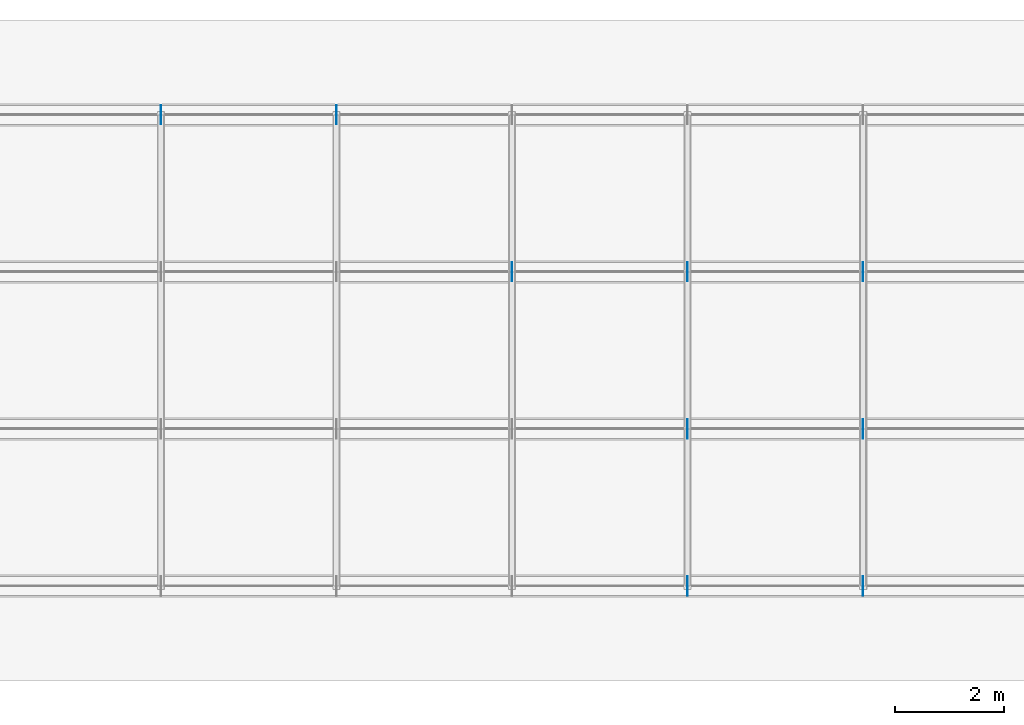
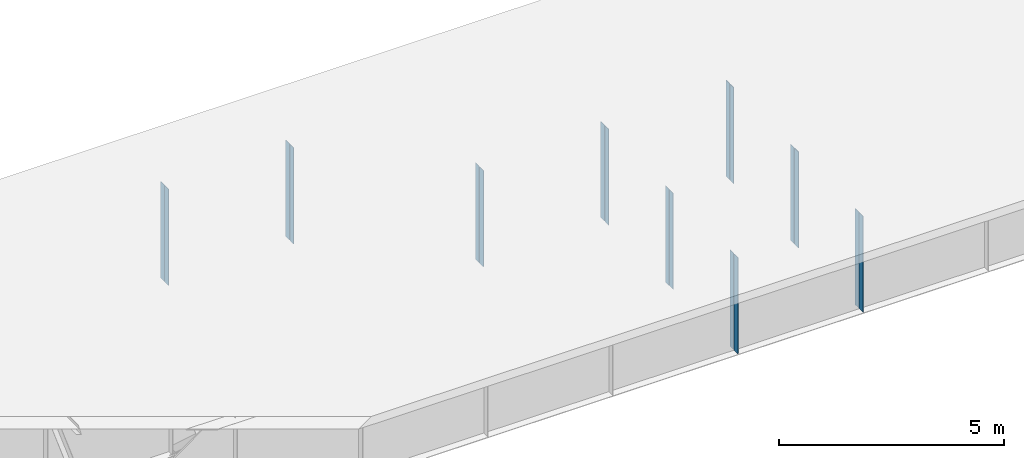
# One storey, part 10 of 13: 18 plates.
"""IFC4 building model written with IfcOpenShell, lengths in metres."""

from ifc_helpers import new_model, si_unit, frame, origin, origin_with_axes, origin_2d_with_axis, place, context, subcontext, project, spatial, rectangle, extrude, element, save


model = new_model("IFC4")

# Units and contexts
model_context = context("Model", 3, precision=1e-05, world=origin())
body_context = subcontext(model_context, "Body", "Model", "MODEL_VIEW")
ifc_project = project(units=[si_unit("LENGTHUNIT", "METRE"), si_unit("AREAUNIT", "SQUARE_METRE"), si_unit("VOLUMEUNIT", "CUBIC_METRE"), si_unit("PLANEANGLEUNIT", "RADIAN")], contexts=[model_context])

# Site, building, storey
site_placement = place(None, origin_with_axes())
site = spatial("IfcSite", under=ifc_project, at=site_placement, Name="Default Site")
building_placement = place(site_placement, origin_with_axes())
building = spatial("IfcBuilding", under=site, at=building_placement, Name="Bridge Structure")
storey_placement = place(building_placement, origin_with_axes())
storey = spatial("IfcBuildingStorey", under=building, at=storey_placement, Name="Superstructure")

# Plates
for number, where, z_axis, x_axis, name in (
    (1, (25.712, -4.2205, -1.307), (0.0, 0.0, 1.0), (1.0, 0.0, 0.0), "Intermediate Stiffener 1"),
    (2, (25.712, -4.4045000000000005, -1.307), (0.0, 0.0, 1.0), (1.0, 0.0, 0.0), "Intermediate Stiffener 1"),
    (3, (28.926000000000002, -4.2205, -1.307), (0.0, 0.0, 1.0), (1.0, 0.0, 0.0), "Intermediate Stiffener 1"),
    (4, (28.926000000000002, -4.4045000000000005, -1.307), (0.0, 0.0, 1.0), (1.0, 0.0, 0.0), "Intermediate Stiffener 1"),
    (5, (25.712, -1.3455, -1.307), (0.0, 0.0, 1.0), (1.0, 0.0, 0.0), "Intermediate Stiffener 2"),
    (6, (25.712, -1.5295, -1.307), (0.0, 0.0, 1.0), (1.0, 0.0, 0.0), "Intermediate Stiffener 2"),
    (7, (28.926000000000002, -1.3455, -1.307), (0.0, 0.0, 1.0), (1.0, 0.0, 0.0), "Intermediate Stiffener 2"),
    (8, (28.926000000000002, -1.5295, -1.307), (0.0, 0.0, 1.0), (1.0, 0.0, 0.0), "Intermediate Stiffener 2"),
    (9, (22.498, 1.5295, -1.307), (0.0, 0.0, 1.0), (1.0, 0.0, 0.0), "Intermediate Stiffener 3"),
    (10, (22.498, 1.3455, -1.307), (0.0, 0.0, 1.0), (1.0, 0.0, 0.0), "Intermediate Stiffener 3"),
    (11, (25.712, 1.5295, -1.307), (0.0, 0.0, 1.0), (1.0, 0.0, 0.0), "Intermediate Stiffener 3"),
    (12, (25.712, 1.3455, -1.307), (0.0, 0.0, 1.0), (1.0, 0.0, 0.0), "Intermediate Stiffener 3"),
    (13, (28.926000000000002, 1.5295, -1.307), (0.0, 0.0, 1.0), (1.0, 0.0, 0.0), "Intermediate Stiffener 3"),
    (14, (28.926000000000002, 1.3455, -1.307), (0.0, 0.0, 1.0), (1.0, 0.0, 0.0), "Intermediate Stiffener 3"),
    (15, (16.07, 4.4045000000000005, -1.307), (0.0, 0.0, 1.0), (1.0, 0.0, 0.0), "Intermediate Stiffener 4"),
    (16, (16.07, 4.2205, -1.307), (0.0, 0.0, 1.0), (1.0, 0.0, 0.0), "Intermediate Stiffener 4"),
    (17, (19.284, 4.4045000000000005, -1.307), (0.0, 0.0, 1.0), (1.0, 0.0, 0.0), "Intermediate Stiffener 4"),
    (18, (19.284, 4.2205, -1.307), (0.0, 0.0, 1.0), (1.0, 0.0, 0.0), "Intermediate Stiffener 4"),
):
    element("IfcPlate", number, at=place(storey_placement, frame(where, z_axis=z_axis, x_axis=x_axis)), inside=storey, Name=name, context=body_context, shape_type="SweptSolid", body=[
        extrude(rectangle(XDim=0.012, YDim=0.166, at=origin_2d_with_axis()), origin_with_axes(), (0.0, 0.0, 1.0), 2.614),
    ])

save(model, "model.ifc")
